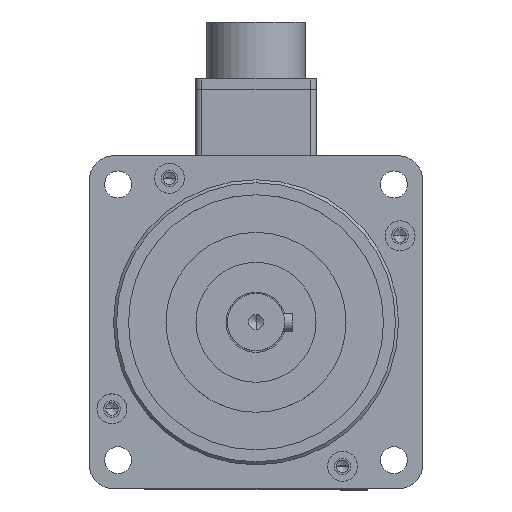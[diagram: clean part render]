
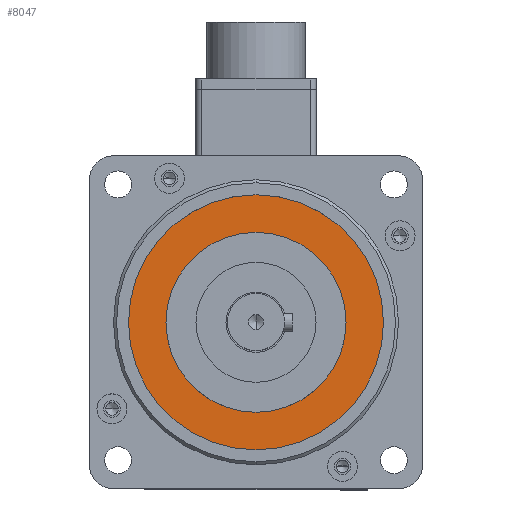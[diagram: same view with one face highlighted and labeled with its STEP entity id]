
A CAD part, top view. The second image highlights one B-rep face of the part: STEP entity #8047.
In plain terms, the highlighted planar face has unit normal (0, 0, 1).
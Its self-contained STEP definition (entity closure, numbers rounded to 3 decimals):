
#695 = EDGE_LOOP ( 'NONE', ( #20736, #3696 ) ) ;
#964 = CARTESIAN_POINT ( 'NONE',  ( -109.503, 42.839, 269.2 ) ) ;
#1087 = VERTEX_POINT ( 'NONE', #27205 ) ;
#1898 = CARTESIAN_POINT ( 'NONE',  ( -79.503, 42.839, 269.2 ) ) ;
#3696 = ORIENTED_EDGE ( 'NONE', *, *, #25735, .T. ) ;
#3904 = FACE_BOUND ( 'NONE', #695, .T. ) ;
#4045 = DIRECTION ( 'NONE',  ( 1., 0., 0. ) ) ;
#4630 = AXIS2_PLACEMENT_3D ( 'NONE', #8616, #4716, #15132 ) ;
#4716 = DIRECTION ( 'NONE',  ( 0., 0., 1. ) ) ;
#5264 = DIRECTION ( 'NONE',  ( 1., 0., 0. ) ) ;
#5443 = AXIS2_PLACEMENT_3D ( 'NONE', #26879, #20584, #12168 ) ;
#7098 = CARTESIAN_POINT ( 'NONE',  ( -49.503, 42.839, 269.2 ) ) ;
#8047 = ADVANCED_FACE ( 'NONE', ( #9230, #3904 ), #17441, .T. ) ;
#8616 = CARTESIAN_POINT ( 'NONE',  ( -79.503, 42.839, 269.2 ) ) ;
#9230 = FACE_OUTER_BOUND ( 'NONE', #12371, .T. ) ;
#9394 = AXIS2_PLACEMENT_3D ( 'NONE', #1898, #16796, #4045 ) ;
#10012 = EDGE_CURVE ( 'NONE', #14599, #13426, #10123, .T. ) ;
#10123 = CIRCLE ( 'NONE', #5443, 30. ) ;
#12168 = DIRECTION ( 'NONE',  ( 1., 0., 0. ) ) ;
#12256 = EDGE_CURVE ( 'NONE', #1087, #13189, #26136, .T. ) ;
#12371 = EDGE_LOOP ( 'NONE', ( #25334, #21770 ) ) ;
#13142 = CIRCLE ( 'NONE', #27110, 30. ) ;
#13189 = VERTEX_POINT ( 'NONE', #25095 ) ;
#13426 = VERTEX_POINT ( 'NONE', #964 ) ;
#14172 = EDGE_CURVE ( 'NONE', #13189, #1087, #26035, .T. ) ;
#14599 = VERTEX_POINT ( 'NONE', #7098 ) ;
#15132 = DIRECTION ( 'NONE',  ( 1., 0., 0. ) ) ;
#15153 = DIRECTION ( 'NONE',  ( 0., 0., 1. ) ) ;
#16796 = DIRECTION ( 'NONE',  ( 0., 0., 1. ) ) ;
#16974 = AXIS2_PLACEMENT_3D ( 'NONE', #26053, #15153, #5264 ) ;
#17441 = PLANE ( 'NONE',  #16974 ) ;
#20584 = DIRECTION ( 'NONE',  ( 0., 0., -1. ) ) ;
#20736 = ORIENTED_EDGE ( 'NONE', *, *, #10012, .T. ) ;
#21770 = ORIENTED_EDGE ( 'NONE', *, *, #12256, .T. ) ;
#25095 = CARTESIAN_POINT ( 'NONE',  ( -37.003, 42.839, 269.2 ) ) ;
#25334 = ORIENTED_EDGE ( 'NONE', *, *, #14172, .T. ) ;
#25702 = CARTESIAN_POINT ( 'NONE',  ( -79.503, 42.839, 269.2 ) ) ;
#25735 = EDGE_CURVE ( 'NONE', #13426, #14599, #13142, .T. ) ;
#25789 = DIRECTION ( 'NONE',  ( 1., 0., 0. ) ) ;
#25878 = DIRECTION ( 'NONE',  ( 0., 0., -1. ) ) ;
#26035 = CIRCLE ( 'NONE', #4630, 42.5 ) ;
#26053 = CARTESIAN_POINT ( 'NONE',  ( -79.503, 42.839, 269.2 ) ) ;
#26136 = CIRCLE ( 'NONE', #9394, 42.5 ) ;
#26879 = CARTESIAN_POINT ( 'NONE',  ( -79.503, 42.839, 269.2 ) ) ;
#27110 = AXIS2_PLACEMENT_3D ( 'NONE', #25702, #25878, #25789 ) ;
#27205 = CARTESIAN_POINT ( 'NONE',  ( -122.003, 42.839, 269.2 ) ) ;
